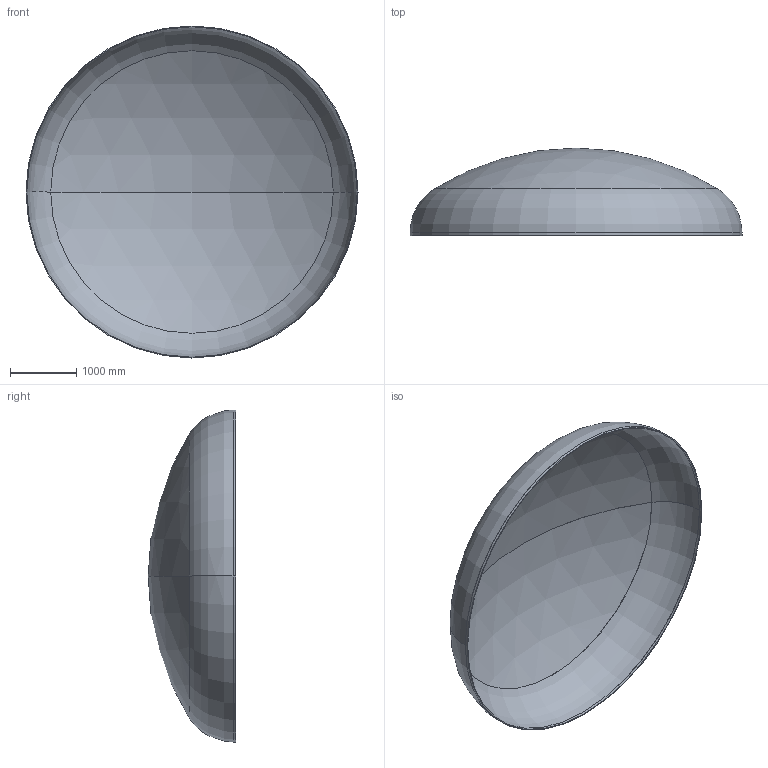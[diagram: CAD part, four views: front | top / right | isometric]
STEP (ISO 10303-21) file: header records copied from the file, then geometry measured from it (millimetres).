
FILE_DESCRIPTION (( 'STEP AP203' ), '1' );
FILE_NAME ('DIN 28013 Korbbogenform_-_Boden DIN 28013 - 5000 x 40 - I - s=12.step', '2016-07-02T00:05:22', ( '' ), ( '' ), 'SwSTEP 2.0', 'SolidWorks 2013', '' );
FILE_SCHEMA (( 'CONFIG_CONTROL_DESIGN' ));
Length unit declared in the file: millimetre
Products named in the file (1): DIN 28013 Korbbogenform_-_Boden DIN 28013 - 5000 x 40 - I - s=12
Bounding box: 5000 x 1316.79 x 5000 mm (x, y, z)
Volume: 332844349.5 mm3; surface area: 55662380.3 mm2
Topology: 1 solids, 1 shells, 13 faces, 24 edges, 14 vertices
Faces by surface type: torus 4, cylinder 4, sphere 4, plane 1
Entity records: 407 total; most frequent: DIRECTION 72, CARTESIAN_POINT 52, ORIENTED_EDGE 48, AXIS2_PLACEMENT_3D 34, EDGE_CURVE 24, CIRCLE 20, VERTEX_POINT 14, EDGE_LOOP 14
